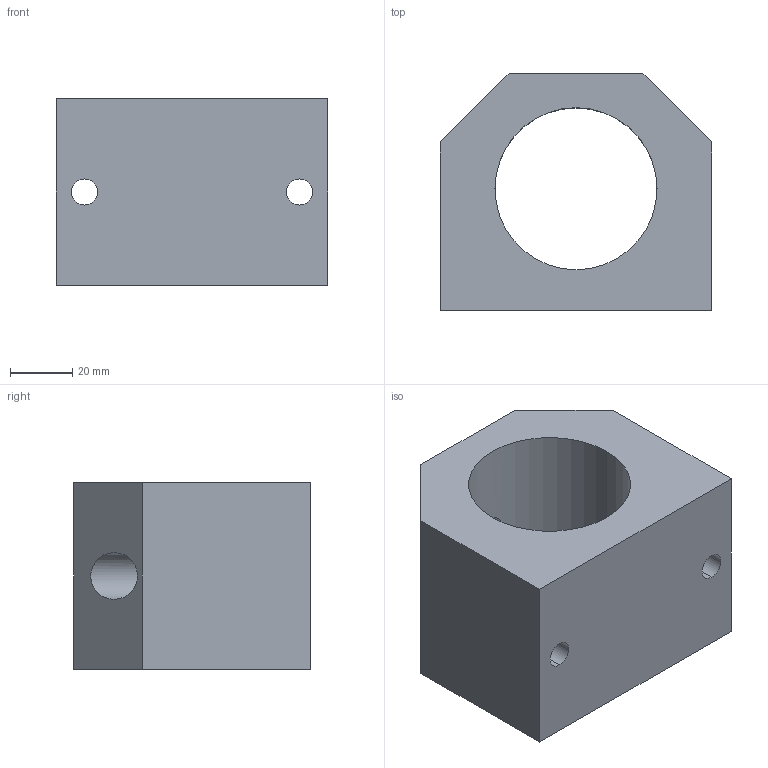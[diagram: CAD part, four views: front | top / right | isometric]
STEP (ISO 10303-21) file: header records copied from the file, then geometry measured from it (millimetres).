
FILE_DESCRIPTION (( 'STEP AP214' ), '1' );
FILE_NAME ('KGC27-40.step', '2020-03-04T13:07:12', ( '' ), ( '' ), 'SwSTEP 2.0', 'SolidWorks 2019', '' );
FILE_SCHEMA (( 'AUTOMOTIVE_DESIGN' ));
Length unit declared in the file: millimetre
Products named in the file (1): KGC27-40
Bounding box: 87 x 76 x 60 mm (x, y, z)
Volume: 226782.7 mm3; surface area: 39985 mm2
Topology: 1 solids, 1 shells, 22 faces, 54 edges, 36 vertices
Faces by surface type: cylinder 12, plane 10
Entity records: 834 total; most frequent: CARTESIAN_POINT 191, DIRECTION 112, ORIENTED_EDGE 108, EDGE_CURVE 54, AXIS2_PLACEMENT_3D 41, VERTEX_POINT 36, EDGE_LOOP 32, VECTOR 30
